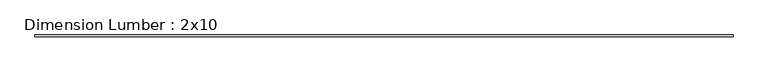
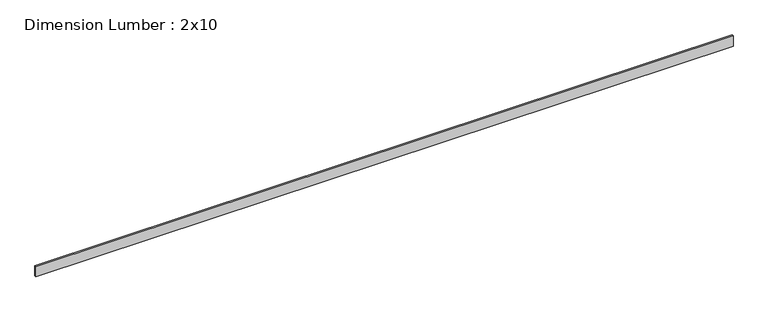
"""IFC4 building model written with IfcOpenShell, lengths in millimetres: beam geometry, Dimension Lumber : 2x10."""

import ifcopenshell
import ifcopenshell.guid

model = None  # the IFC model being written
_history = None  # IfcOwnerHistory: only IFC2X3 demands one
_inside = {}  # id of a spatial element -> (the spatial element, [elements in it])
_under = {}  # id of a project, library or spatial element -> (it, [spatial elements below it])
_declared = {}  # id of a project -> (the project, [libraries it declares])
_typed = {}  # id of a type object -> (the type object, [elements of that type])
_made_of = {}  # id of a material, layer set ... -> (it, [elements and type objects made of it])


def new_model(schema):
    """Start an empty IFC model of exactly this schema.

    Asked for "IFC4X3", IfcOpenShell would pick the latest addendum, in which some entities
    have other attributes; the version numbers below select the first issue.
    IFC2X3 requires an IfcOwnerHistory on every rooted entity: one is made here for all.
    """
    global model, _history
    if schema == "IFC4X3":
        model = ifcopenshell.file(schema_version=(4, 3, 0, 0))
    else:
        model = ifcopenshell.file(schema=schema)
    _inside.clear()
    _under.clear()
    _declared.clear()
    _typed.clear()
    _made_of.clear()
    _history = None
    if model.schema == "IFC2X3":
        org = make("IfcOrganization", Name="unknown")
        user = make(
            "IfcPersonAndOrganization",
            ThePerson=make("IfcPerson", FamilyName="unknown"),
            TheOrganization=org,
        )
        app = make(
            "IfcApplication",
            ApplicationDeveloper=org,
            Version="unknown",
            ApplicationFullName="unknown",
            ApplicationIdentifier="unknown",
        )
        _history = make(
            "IfcOwnerHistory",
            OwningUser=user,
            OwningApplication=app,
            ChangeAction="ADDED",
            CreationDate=0,
        )
    return model


def make(cls, **values):
    """One entity of the class cls with the attributes given. An attribute that is None is left unset."""
    return model.create_entity(
        cls, **{name: value for name, value in values.items() if value is not None}
    )


def rooted(cls, **values):
    """An entity with a GlobalId (a new one), such as an element, a storey or a relation."""
    return make(cls, GlobalId=ifcopenshell.guid.new(), OwnerHistory=_history, **values)


def si_unit(unit_type, name, prefix=None):
    """IfcSIUnit, for example si_unit("LENGTHUNIT", "METRE", prefix="MILLI")."""
    return make("IfcSIUnit", UnitType=unit_type, Prefix=prefix, Name=name)


def assignment(units):
    """IfcUnitAssignment: the units of a project."""
    return None if units is None else make("IfcUnitAssignment", Units=units)


def point(xyz):
    """IfcCartesianPoint."""
    return None if xyz is None else make("IfcCartesianPoint", Coordinates=xyz)


def direction(xyz):
    """IfcDirection."""
    return None if xyz is None else make("IfcDirection", DirectionRatios=xyz)


def frame(location, z_axis=None, x_axis=None):
    """IfcAxis2Placement3D, a coordinate frame: its origin and axes. An axis left out is left unset."""
    return make(
        "IfcAxis2Placement3D",
        Location=point(location),
        Axis=direction(z_axis),
        RefDirection=direction(x_axis),
    )


def origin():
    """The frame at (0, 0, 0) with its axes left unset."""
    return frame((0.0, 0.0, 0.0))


def place(relative_to, where):
    """IfcLocalPlacement: puts the frame where relative to a parent placement (None: the world)."""
    return make(
        "IfcLocalPlacement", PlacementRelTo=relative_to, RelativePlacement=where
    )


def context(
    kind, dimensions, precision=None, world=None, true_north=None, identifier=None
):
    """IfcGeometricRepresentationContext, for example the 3D "Model" context."""
    return make(
        "IfcGeometricRepresentationContext",
        ContextIdentifier=identifier,
        ContextType=kind,
        CoordinateSpaceDimension=dimensions,
        Precision=precision,
        WorldCoordinateSystem=world,
        TrueNorth=true_north,
    )


def project(units=None, contexts=None):
    """IfcProject with its units and contexts."""
    return rooted(
        "IfcProject",
        Name="project",
        RepresentationContexts=contexts,
        UnitsInContext=assignment(units),
    )


def spatial(cls, under=None, at=None, **own):
    """A site, building, storey or space (cls), placed at a placement, below another one or the project."""
    s = rooted(cls, ObjectPlacement=at, **own)
    if under is not None:
        _under.setdefault(under.id(), (under, []))[1].append(s)
    return s


def polyline(points):
    """IfcPolyline through the points."""
    return make("IfcPolyline", Points=[point(p) for p in points])


def outline(outer, holes=None, kind="AREA"):
    """IfcArbitraryClosedProfileDef: a profile drawn as a closed curve; with holes, ...WithVoids."""
    if holes is None:
        return make("IfcArbitraryClosedProfileDef", ProfileType=kind, OuterCurve=outer)
    return make(
        "IfcArbitraryProfileDefWithVoids",
        ProfileType=kind,
        OuterCurve=outer,
        InnerCurves=holes,
    )


def extrude(swept, where, along, depth):
    """IfcExtrudedAreaSolid: the profile swept, set in the frame where, extruded along a direction by depth."""
    return make(
        "IfcExtrudedAreaSolid",
        SweptArea=swept,
        Position=where,
        ExtrudedDirection=direction(along),
        Depth=depth,
    )


def shape(context_of_items, identifier, shape_type, items):
    """IfcShapeRepresentation: the items that make up one representation, for example the "Body"."""
    return make(
        "IfcShapeRepresentation",
        ContextOfItems=context_of_items,
        RepresentationIdentifier=identifier,
        RepresentationType=shape_type,
        Items=items,
    )


def source(mapping_origin, context_of_items, identifier, shape_type, items):
    """IfcRepresentationMap: a shape defined once, which mapped items show again and again."""
    return make(
        "IfcRepresentationMap",
        MappingOrigin=mapping_origin,
        MappedRepresentation=shape(context_of_items, identifier, shape_type, items),
    )


def transform(
    local_origin,
    x_axis=None,
    y_axis=None,
    z_axis=None,
    scale=None,
    scale2=None,
    scale3=None,
    uniform=True,
):
    """IfcCartesianTransformationOperator3D, or its non-uniform kind. x_axis, y_axis, z_axis: its Axis1, 2, 3."""
    if uniform:
        return make(
            "IfcCartesianTransformationOperator3D",
            Axis1=direction(x_axis),
            Axis2=direction(y_axis),
            LocalOrigin=point(local_origin),
            Scale=scale,
            Axis3=direction(z_axis),
        )
    return make(
        "IfcCartesianTransformationOperator3DnonUniform",
        Axis1=direction(x_axis),
        Axis2=direction(y_axis),
        LocalOrigin=point(local_origin),
        Scale=scale,
        Axis3=direction(z_axis),
        Scale2=scale2,
        Scale3=scale3,
    )


def mapped(mapping_source, mapping_target):
    """IfcMappedItem: shows the shape of a source again, moved by a transform."""
    return make(
        "IfcMappedItem", MappingSource=mapping_source, MappingTarget=mapping_target
    )


def made_of(thing, what):
    """Note that an element or type object is made of a material, layer set ...; save() writes the relation."""
    if what is not None:
        _made_of.setdefault(what.id(), (what, []))[1].append(thing)
    return thing


def element(
    cls,
    number,
    at=None,
    inside=None,
    cuts=None,
    type_object=None,
    material=None,
    context=None,
    identifier="Body",
    shape_type=None,
    held_by="IfcProductDefinitionShape",
    body=None,
    shapes=None,
    **own,
):
    """One element of the class cls, such as IfcWall. Its Tag is "e" and its number.

    at: its placement. inside: the storey or other place that contains it. cuts: it is an
    opening in that element (IfcRelVoidsElement). A single representation is given by context,
    identifier, shape_type and body (its items); several are given by shapes. held_by: the class
    of the entity that holds the representations. save() writes the other relations.
    """
    e = rooted(cls, Tag="e%d" % number, ObjectPlacement=at, **own)
    if body is not None:
        shapes = [shape(context, identifier, shape_type, body)]
    if shapes is not None:
        e.Representation = make(held_by, Representations=shapes)
    if inside is not None:
        _inside.setdefault(inside.id(), (inside, []))[1].append(e)
    if cuts is not None:
        rooted(
            "IfcRelVoidsElement", RelatingBuildingElement=cuts, RelatedOpeningElement=e
        )
    if type_object is not None:
        _typed.setdefault(type_object.id(), (type_object, []))[1].append(e)
    return made_of(e, material)


def aggregate(whole, parts):
    """IfcRelAggregates: a whole, such as a stair, and the parts it consists of."""
    return rooted("IfcRelAggregates", RelatingObject=whole, RelatedObjects=parts)


def save(model, path):
    """Write the relations noted so far, then the file.

    IfcRelAggregates (storeys below a building ...), IfcRelContainedInSpatialStructure (elements
    in a storey), IfcRelDefinesByType, IfcRelAssociatesMaterial and IfcRelDeclares: one each for
    every whole, place, type object, material and project.
    """
    for whole, parts in _under.values():
        aggregate(whole, parts)
    for where, things in _inside.values():
        rooted(
            "IfcRelContainedInSpatialStructure",
            RelatedElements=things,
            RelatingStructure=where,
        )
    for kind, things in _typed.values():
        rooted("IfcRelDefinesByType", RelatedObjects=things, RelatingType=kind)
    for what, things in _made_of.values():
        rooted("IfcRelAssociatesMaterial", RelatedObjects=things, RelatingMaterial=what)
    for by, libraries in _declared.values():
        rooted("IfcRelDeclares", RelatingContext=by, RelatedDefinitions=libraries)
    model.write(path)


def dimension_lumber_2x10_61c77e52(model_context):
    return source(origin(), model_context, "Body", "SweptSolid", [
        extrude(outline(polyline([(6283.755989, 19.05), (6283.755989, -19.05), (-9019.871011, -19.05), (-9019.871011, 19.05), (6283.755989, 19.05)])), frame((0.0, 0.0, -117.475), z_axis=(0.0, 0.0, 1.0), x_axis=(1.0, 0.0, 0.0)), (0.0, 0.0, 1.0), 234.95),
    ])


if __name__ == "__main__":
    model = new_model("IFC4")
    model_context = context("Model", 3, world=origin())
    ifc_project = project(units=[si_unit("LENGTHUNIT", "METRE", prefix="MILLI")], contexts=[model_context])
    site = spatial("IfcSite", under=ifc_project)
    building = spatial("IfcBuilding", under=site)
    placement = place(None, origin())
    dimension_lumber_2x10_shape = dimension_lumber_2x10_61c77e52(model_context)
    element("IfcBeam", 1, ObjectType="Dimension Lumber : 2x10", at=placement, inside=building, context=model_context, shape_type="MappedRepresentation", body=[
        mapped(dimension_lumber_2x10_shape, transform((0.0, 0.0, 0.0), x_axis=(1.0, 0.0, 0.0), y_axis=(0.0, 1.0, 0.0), z_axis=(0.0, 0.0, 1.0))),
    ])
    save(model, "model.ifc")
